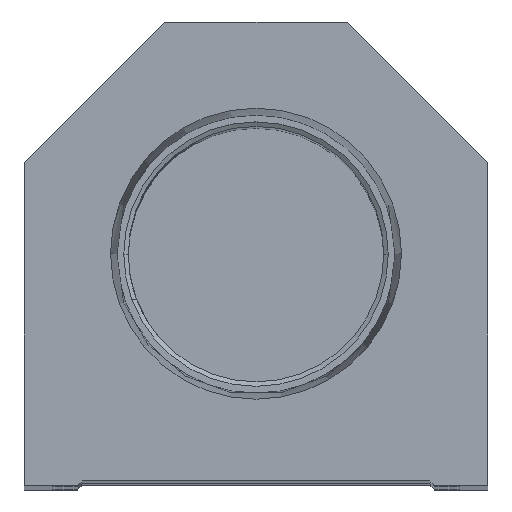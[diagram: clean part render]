
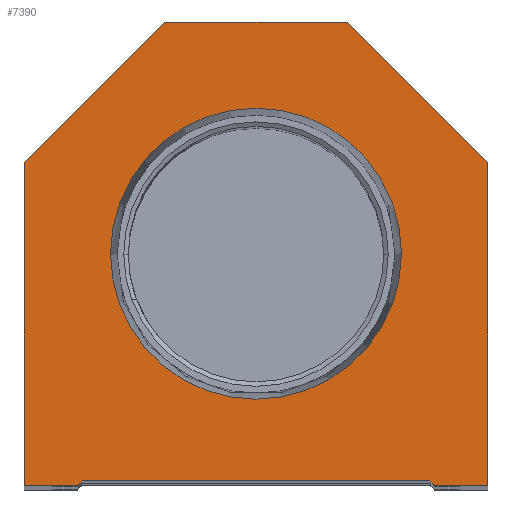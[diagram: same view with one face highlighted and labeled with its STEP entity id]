
A CAD part, top view. The second image highlights one B-rep face of the part: STEP entity #7390.
In plain terms, the highlighted planar face has unit normal (0, 0, 1).
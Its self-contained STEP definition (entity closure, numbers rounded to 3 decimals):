
#110 = VECTOR ( 'NONE', #3845, 1000. ) ;
#293 = CARTESIAN_POINT ( 'NONE',  ( -25.4, 35.4, 0. ) ) ;
#347 = EDGE_CURVE ( 'NONE', #21246, #2843, #20024, .T. ) ;
#753 = ORIENTED_EDGE ( 'NONE', *, *, #19863, .T. ) ;
#953 = CARTESIAN_POINT ( 'NONE',  ( 19.55, 0., 0. ) ) ;
#968 = LINE ( 'NONE', #4850, #12316 ) ;
#1114 = CARTESIAN_POINT ( 'NONE',  ( 19.05, 0., 0. ) ) ;
#1259 = VERTEX_POINT ( 'NONE', #3230 ) ;
#2264 = VERTEX_POINT ( 'NONE', #14523 ) ;
#2363 = ORIENTED_EDGE ( 'NONE', *, *, #6156, .T. ) ;
#2843 = VERTEX_POINT ( 'NONE', #13076 ) ;
#2912 = DIRECTION ( 'NONE',  ( 0., 0., 1. ) ) ;
#2923 = EDGE_CURVE ( 'NONE', #8168, #1259, #7990, .T. ) ;
#3199 = ORIENTED_EDGE ( 'NONE', *, *, #14851, .T. ) ;
#3230 = CARTESIAN_POINT ( 'NONE',  ( -19.05, 0.5, 0. ) ) ;
#3592 = CARTESIAN_POINT ( 'NONE',  ( 15.947, 25.4, 0. ) ) ;
#3637 = VECTOR ( 'NONE', #13660, 1000. ) ;
#3753 = CARTESIAN_POINT ( 'NONE',  ( 25.4, 35.4, 0. ) ) ;
#3845 = DIRECTION ( 'NONE',  ( 1., 0., 0. ) ) ;
#4232 = DIRECTION ( 'NONE',  ( 0.707, 0.707, 0. ) ) ;
#4292 = CARTESIAN_POINT ( 'NONE',  ( 9.775, 9.775, 0. ) ) ;
#4523 = CARTESIAN_POINT ( 'NONE',  ( 19.05, 0.5, 0. ) ) ;
#4624 = AXIS2_PLACEMENT_3D ( 'NONE', #8001, #20160, #12551 ) ;
#4747 = FACE_BOUND ( 'NONE', #17833, .T. ) ;
#4828 = VECTOR ( 'NONE', #15073, 1000. ) ;
#4850 = CARTESIAN_POINT ( 'NONE',  ( -25.4, 0., 0. ) ) ;
#4911 = ORIENTED_EDGE ( 'NONE', *, *, #14559, .T. ) ;
#5174 = DIRECTION ( 'NONE',  ( 0., -1., 0. ) ) ;
#5614 = VERTEX_POINT ( 'NONE', #3753 ) ;
#6156 = EDGE_CURVE ( 'NONE', #22339, #2264, #14960, .T. ) ;
#6638 = VERTEX_POINT ( 'NONE', #9506 ) ;
#7390 = ADVANCED_FACE ( 'NONE', ( #4747, #20322 ), #13018, .T. ) ;
#7396 = LINE ( 'NONE', #4292, #15239 ) ;
#7435 = AXIS2_PLACEMENT_3D ( 'NONE', #18494, #2912, #18611 ) ;
#7736 = ORIENTED_EDGE ( 'NONE', *, *, #21965, .T. ) ;
#7990 = LINE ( 'NONE', #14879, #16239 ) ;
#8001 = CARTESIAN_POINT ( 'NONE',  ( 0., 25.4, 0. ) ) ;
#8168 = VERTEX_POINT ( 'NONE', #12999 ) ;
#8421 = CARTESIAN_POINT ( 'NONE',  ( 25.4, 35.4, 0. ) ) ;
#8443 = LINE ( 'NONE', #16732, #3637 ) ;
#8689 = ORIENTED_EDGE ( 'NONE', *, *, #15878, .T. ) ;
#8815 = DIRECTION ( 'NONE',  ( 1., 0., 0. ) ) ;
#8930 = ORIENTED_EDGE ( 'NONE', *, *, #11628, .F. ) ;
#8941 = LINE ( 'NONE', #12306, #17558 ) ;
#9506 = CARTESIAN_POINT ( 'NONE',  ( 10., 50.8, 0. ) ) ;
#10160 = EDGE_LOOP ( 'NONE', ( #20930, #12564, #7736, #4911, #2363, #753, #3199, #11152, #19237, #8689 ) ) ;
#10611 = CARTESIAN_POINT ( 'NONE',  ( 0., 25.4, 0. ) ) ;
#11152 = ORIENTED_EDGE ( 'NONE', *, *, #22092, .T. ) ;
#11435 = VERTEX_POINT ( 'NONE', #4523 ) ;
#11628 = EDGE_CURVE ( 'NONE', #2843, #21246, #19129, .T. ) ;
#12251 = DIRECTION ( 'NONE',  ( 1., 0., 0. ) ) ;
#12306 = CARTESIAN_POINT ( 'NONE',  ( 10., 50.8, 0. ) ) ;
#12316 = VECTOR ( 'NONE', #5174, 1000. ) ;
#12342 = VECTOR ( 'NONE', #15324, 1000. ) ;
#12551 = DIRECTION ( 'NONE',  ( 1., 0., 0. ) ) ;
#12564 = ORIENTED_EDGE ( 'NONE', *, *, #2923, .T. ) ;
#12576 = DIRECTION ( 'NONE',  ( 0.707, -0.707, 0. ) ) ;
#12762 = DIRECTION ( 'NONE',  ( 0., 0., 1. ) ) ;
#12999 = CARTESIAN_POINT ( 'NONE',  ( -19.55, 0., 0. ) ) ;
#13018 = PLANE ( 'NONE',  #7435 ) ;
#13076 = CARTESIAN_POINT ( 'NONE',  ( -15.947, 25.4, 0. ) ) ;
#13407 = VECTOR ( 'NONE', #12251, 1000. ) ;
#13576 = EDGE_CURVE ( 'NONE', #20670, #8168, #18999, .T. ) ;
#13660 = DIRECTION ( 'NONE',  ( -0.707, -0.707, 0. ) ) ;
#14161 = LINE ( 'NONE', #19416, #110 ) ;
#14199 = EDGE_CURVE ( 'NONE', #14737, #19258, #8443, .T. ) ;
#14203 = CARTESIAN_POINT ( 'NONE',  ( -10., 50.8, 0. ) ) ;
#14523 = CARTESIAN_POINT ( 'NONE',  ( 25.4, 0., 0. ) ) ;
#14559 = EDGE_CURVE ( 'NONE', #11435, #22339, #7396, .T. ) ;
#14737 = VERTEX_POINT ( 'NONE', #14203 ) ;
#14851 = EDGE_CURVE ( 'NONE', #5614, #6638, #18652, .T. ) ;
#14879 = CARTESIAN_POINT ( 'NONE',  ( -9.775, 9.775, 0. ) ) ;
#14960 = LINE ( 'NONE', #1114, #4828 ) ;
#15073 = DIRECTION ( 'NONE',  ( 1., 0., 0. ) ) ;
#15239 = VECTOR ( 'NONE', #12576, 1000. ) ;
#15324 = DIRECTION ( 'NONE',  ( -0.707, 0.707, 0. ) ) ;
#15681 = CARTESIAN_POINT ( 'NONE',  ( 25.4, 0., 0. ) ) ;
#15878 = EDGE_CURVE ( 'NONE', #19258, #20670, #968, .T. ) ;
#15911 = LINE ( 'NONE', #15681, #19352 ) ;
#16239 = VECTOR ( 'NONE', #4232, 1000. ) ;
#16370 = AXIS2_PLACEMENT_3D ( 'NONE', #10611, #12762, #8815 ) ;
#16732 = CARTESIAN_POINT ( 'NONE',  ( -25.4, 35.4, 0. ) ) ;
#17558 = VECTOR ( 'NONE', #22492, 1000. ) ;
#17833 = EDGE_LOOP ( 'NONE', ( #19382, #8930 ) ) ;
#18494 = CARTESIAN_POINT ( 'NONE',  ( 0., 0., 0. ) ) ;
#18542 = CARTESIAN_POINT ( 'NONE',  ( -25.4, 0., 0. ) ) ;
#18611 = DIRECTION ( 'NONE',  ( 1., 0., 0. ) ) ;
#18652 = LINE ( 'NONE', #8421, #12342 ) ;
#18999 = LINE ( 'NONE', #21043, #13407 ) ;
#19129 = CIRCLE ( 'NONE', #4624, 15.947 ) ;
#19237 = ORIENTED_EDGE ( 'NONE', *, *, #14199, .T. ) ;
#19258 = VERTEX_POINT ( 'NONE', #293 ) ;
#19352 = VECTOR ( 'NONE', #20833, 1000. ) ;
#19382 = ORIENTED_EDGE ( 'NONE', *, *, #347, .F. ) ;
#19416 = CARTESIAN_POINT ( 'NONE',  ( -19.05, 0.5, 0. ) ) ;
#19863 = EDGE_CURVE ( 'NONE', #2264, #5614, #15911, .T. ) ;
#20024 = CIRCLE ( 'NONE', #16370, 15.947 ) ;
#20160 = DIRECTION ( 'NONE',  ( 0., 0., 1. ) ) ;
#20322 = FACE_OUTER_BOUND ( 'NONE', #10160, .T. ) ;
#20670 = VERTEX_POINT ( 'NONE', #18542 ) ;
#20833 = DIRECTION ( 'NONE',  ( 0., 1., 0. ) ) ;
#20930 = ORIENTED_EDGE ( 'NONE', *, *, #13576, .T. ) ;
#21043 = CARTESIAN_POINT ( 'NONE',  ( -19.05, 0., 0. ) ) ;
#21246 = VERTEX_POINT ( 'NONE', #3592 ) ;
#21965 = EDGE_CURVE ( 'NONE', #1259, #11435, #14161, .T. ) ;
#22092 = EDGE_CURVE ( 'NONE', #6638, #14737, #8941, .T. ) ;
#22339 = VERTEX_POINT ( 'NONE', #953 ) ;
#22492 = DIRECTION ( 'NONE',  ( -1., 0., 0. ) ) ;
